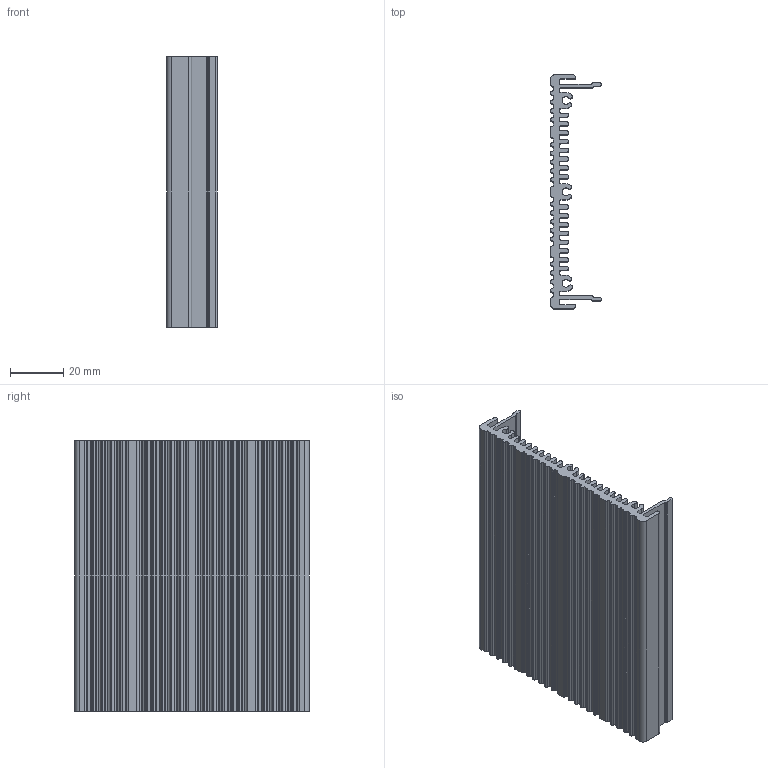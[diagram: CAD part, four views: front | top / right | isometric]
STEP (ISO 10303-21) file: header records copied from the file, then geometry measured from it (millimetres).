
FILE_DESCRIPTION (( 'STEP AP203' ), '1' );
FILE_NAME ('2U Extruded Side Rev 0.1.step', '2019-05-07T14:35:00', ( '' ), ( '' ), 'SwSTEP 2.0', 'SolidWorks 2019', '' );
FILE_SCHEMA (( 'CONFIG_CONTROL_DESIGN' ));
Length unit declared in the file: inch
Products named in the file (1): 2U Extruded Side Rev 0.1
Bounding box: 19.04 x 88.14 x 101.6 mm (x, y, z)
Volume: 44802 mm3; surface area: 44135.7 mm2
Topology: 1 solids, 1 shells, 380 faces, 1134 edges, 756 vertices
Faces by surface type: cylinder 197, plane 183
Entity records: 12971 total; most frequent: DIRECTION 2290, CARTESIAN_POINT 2271, ORIENTED_EDGE 2268, EDGE_CURVE 1134, AXIS2_PLACEMENT_3D 775, VERTEX_POINT 756, VECTOR 740, LINE 740
